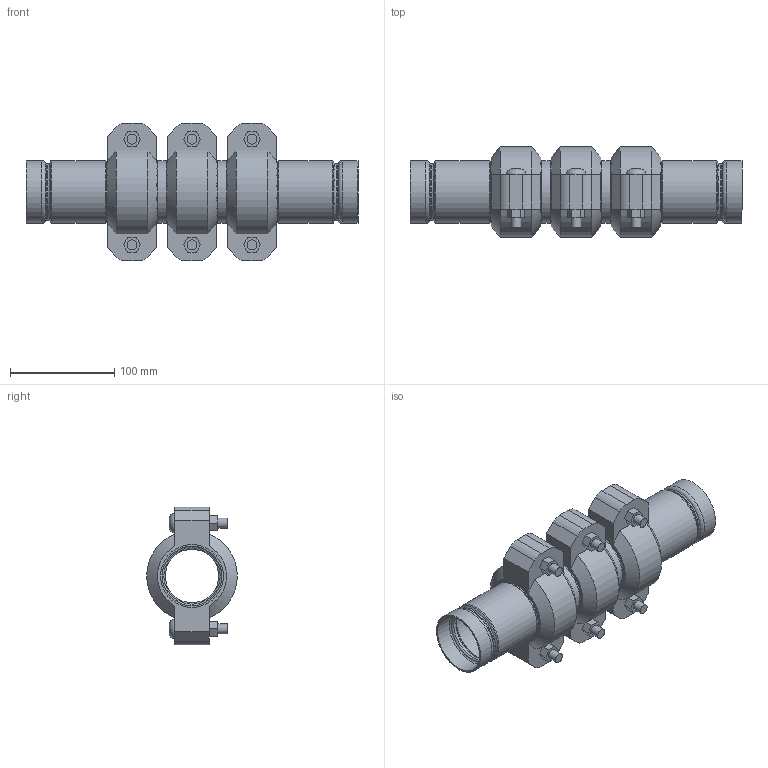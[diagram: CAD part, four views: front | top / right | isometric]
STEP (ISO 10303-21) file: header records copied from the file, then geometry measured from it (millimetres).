
FILE_DESCRIPTION(/* description */ ('VIC STRENGTHIN 100 EXPANSION JOINT 3 COUPLINGS COMPRESSED STYLE E155 (ST1)','CAx-IF Rec.Pracs.---Representation and Presentation of Product Manufacturing Information (PMI)---4.0---2014-10-13'),/* implementation_level */ '2;1');
FILE_NAME(/* name */ 'C:\Users\Vjadhav\AppData\Roaming\Autodesk\ApplicationPlugins\Victaulic.Temp\A21\Victaulic_SS-StrengThin 100_Expansion Joint_Compressed_3 Couplings_Style E155 (ST1)_2 (50).stp',/* time_stamp */ '2021-07-23T12:30:10+05:00',/* author */ ('kkamble'),/* organization */ ('Victaulic'),/* preprocessor_version */ 'ST-DEVELOPER v17.2',/* originating_system */ 'Autodesk Inventor 2019',/* authorisation */ '');
FILE_SCHEMA (('AP242_MANAGED_MODEL_BASED_3D_ENGINEERING_MIM_LF { 1 0 10303 442 1 1 4 }'));
Length unit declared in the file: inch
Products named in the file (4): E155-02.0; E494G-02.0; Nipple-02.0; 075-02.0
Assembly tree (7 placements, depth 2):
  E155-02.0
    E494G-02.0  x2
    Nipple-02.0  x2
    075-02.0  x3
Bounding box: 319.02 x 87.12 x 132.59 mm (x, y, z)
Volume: 731636.9 mm3; surface area: 240019.6 mm2
Topology: 7 solids, 13 shells, 251 faces, 663 edges, 472 vertices
Faces by surface type: plane 126, cylinder 71, torus 32, cone 16, bspline 6
Full cylindrical faces by diameter (mm): 9.525 x12, 11.43 x6, 51.13 x2, 52.502 x2, 53.95 x2, 54.331 x2, 57.125 x6, 57.15 x6, 60.325 x15
Entity records: 3615 total; most frequent: DIRECTION 639, CARTESIAN_POINT 639, ORIENTED_EDGE 536, AXIS2_PLACEMENT_3D 271, EDGE_CURVE 268, VERTEX_POINT 193, CIRCLE 163, EDGE_LOOP 123
